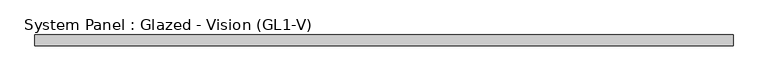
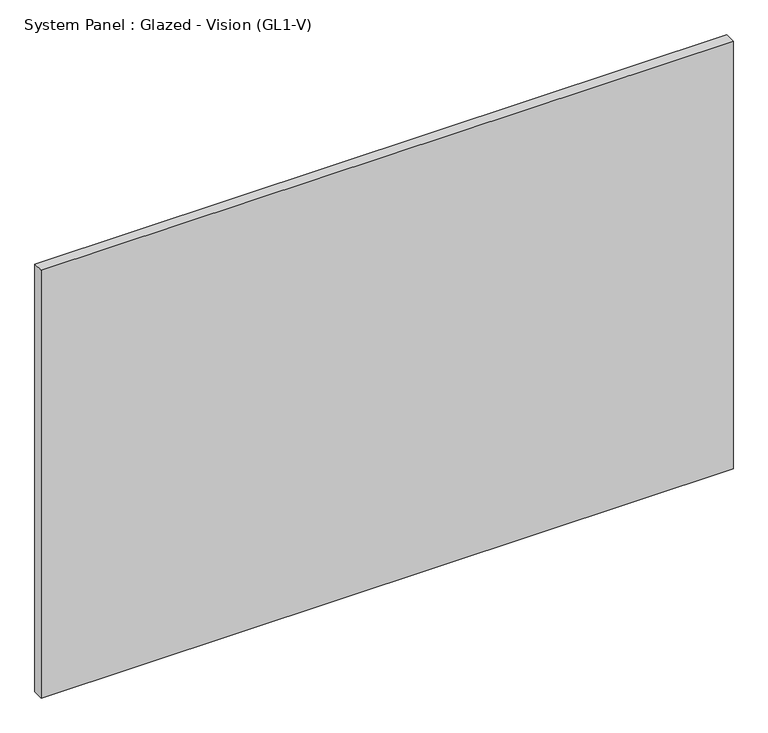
"""IFC4 building model written with IfcOpenShell, lengths in millimetres: plate geometry, System Panel : Glazed - Vision (GL1-V)."""

from ifc_helpers import new_model, si_unit, origin, origin_with_axes, place, context, project, spatial, polyline, outline, extrude, source, transform, mapped, element, save


def system_panel_glazed_vision_gl1_v_5a055c93(model_context):
    return source(origin(), model_context, "Body", "SweptSolid", [
        extrude(outline(polyline([(815.975, -25.4), (-815.975, -25.4), (-815.975, 0.0), (815.975, 0.0), (815.975, -25.4)])), origin_with_axes(), (0.0, 0.0, 1.0), 1066.8000021),
    ])


if __name__ == "__main__":
    model = new_model("IFC4")
    model_context = context("Model", 3, world=origin())
    ifc_project = project(units=[si_unit("LENGTHUNIT", "METRE", prefix="MILLI")], contexts=[model_context])
    site = spatial("IfcSite", under=ifc_project)
    building = spatial("IfcBuilding", under=site)
    placement = place(None, origin())
    system_panel_glazed_vision_gl1_v_shape = system_panel_glazed_vision_gl1_v_5a055c93(model_context)
    element("IfcPlate", 1, ObjectType="System Panel : Glazed - Vision (GL1-V)", at=placement, inside=building, context=model_context, shape_type="MappedRepresentation", body=[
        mapped(system_panel_glazed_vision_gl1_v_shape, transform((0.0, 0.0, 0.0), x_axis=(1.0, 0.0, 0.0), y_axis=(0.0, 1.0, 0.0), z_axis=(0.0, 0.0, 1.0))),
    ])
    save(model, "model.ifc")
